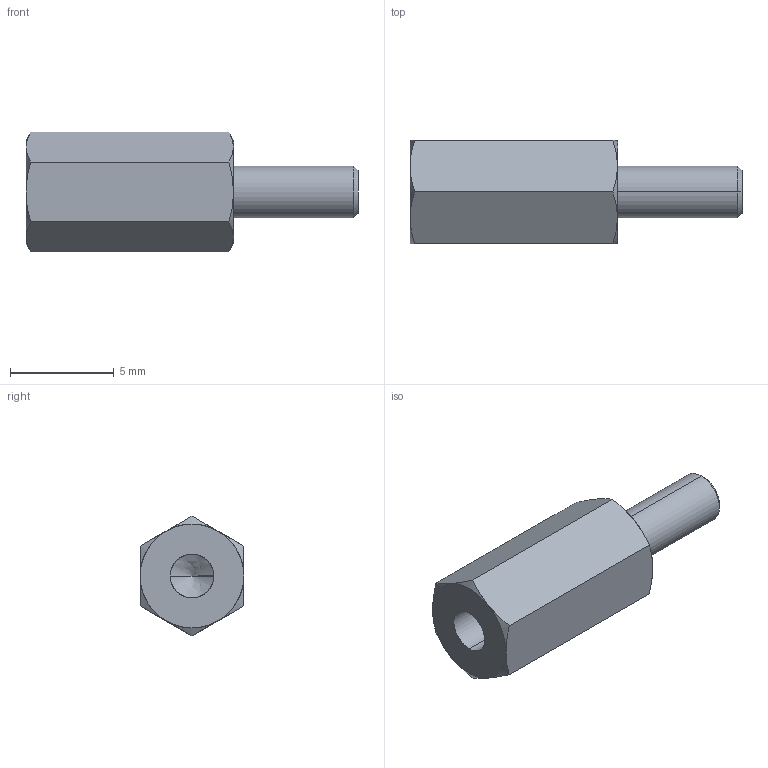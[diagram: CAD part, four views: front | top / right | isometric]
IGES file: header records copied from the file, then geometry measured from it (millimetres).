
Start section: SolidWorks IGES file using analytic representation for surfaces
Global section: file name: C:\Users\render1\Desktop\P0185_IGES\P0185.025-10.igs; native system: SolidWorks 2009; preprocessor: SolidWorks 2009; author: render1; date: 130627.111459; units: millimetre
Bounding box: 16 x 5 x 5.77 mm (x, y, z)
Surface area: 294.2 mm2 (no closed solid volume)
Topology: 0 solids, 0 shells, 29 faces, 324 edges, 322 vertices
Faces by surface type: revolution 20, bspline 9
